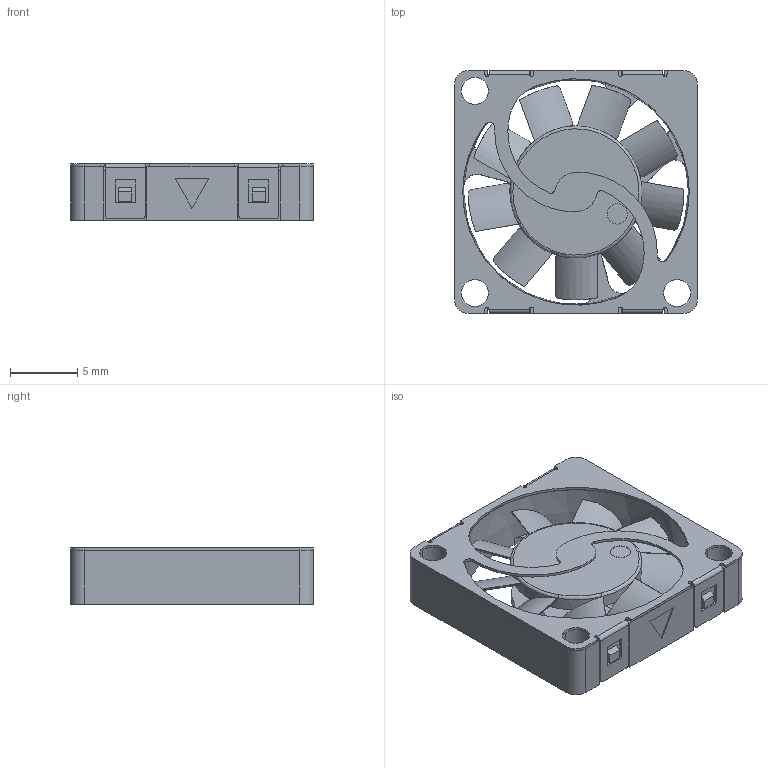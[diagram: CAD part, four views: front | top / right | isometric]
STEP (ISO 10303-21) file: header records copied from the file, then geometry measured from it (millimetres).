
FILE_DESCRIPTION((''),'2;1');
FILE_NAME('2021-02-26-1804_ASM','2023-11-14T13:05:30',('pc'),(''),'CREO PARAMETRIC BY PTC INC, 2018050','CREO PARAMETRIC BY PTC INC, 2018050','');
FILE_SCHEMA(('CONFIG_CONTROL_DESIGN','GEOMETRIC_VALIDATION_PROPERTIES_MIM'));
Length unit declared in the file: millimetre
Products named in the file (12): FS-1-1_78; FS-1-4_5; FS-1-5_4; FS-1-6_2; FS-1-8_4; 1804; FS-1-3_41; FS-1-7_3; FS-1-9_4; A_ASM; ASM-FS1_ASM_60_ASM; 2021-02-26-1804_ASM
Assembly tree (13 placements, depth 4):
  2021-02-26-1804_ASM
    ASM-FS1_ASM_60_ASM
      FS-1-1_78
      FS-1-4_5
      FS-1-5_4
      FS-1-6_2
      FS-1-8_4
      1804  x2
      A_ASM
        FS-1-3_41
        FS-1-7_3
        FS-1-9_4
    1804
Bounding box: 18 x 18 x 4.2 mm (x, y, z)
Volume: 582.1 mm3; surface area: 2829.8 mm2
Topology: 11 solids, 11 shells, 651 faces, 1875 edges, 1256 vertices
Faces by surface type: plane 323, cylinder 258, cone 46, torus 20, sphere 4
Entity records: 19030 total; most frequent: CARTESIAN_POINT 3676, ORIENTED_EDGE 2510, DIRECTION 2480, EDGE_CURVE 1255, AXIS2_PLACEMENT_3D 929, VERTEX_POINT 848, PRESENTATION_STYLE_ASSIGNMENT 708, STYLED_ITEM 708
